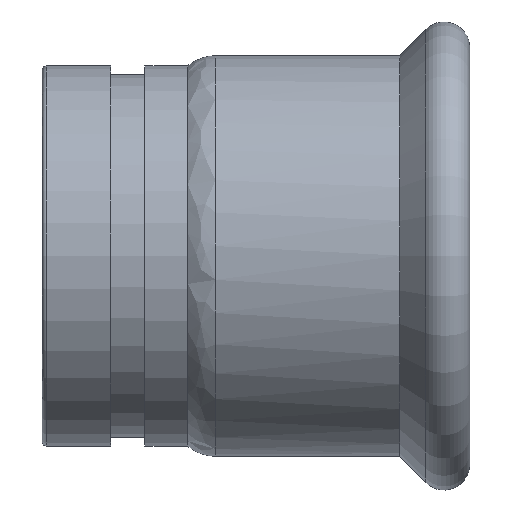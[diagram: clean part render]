
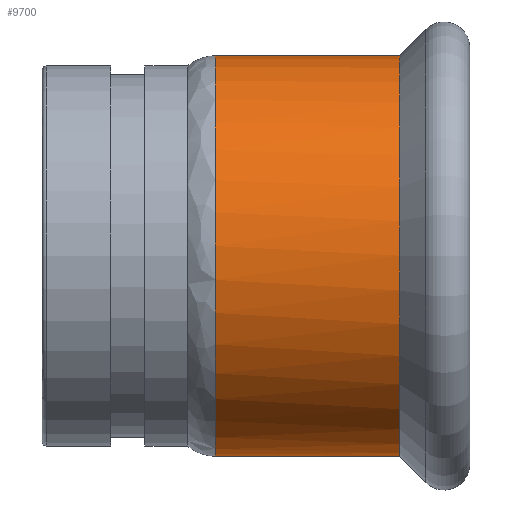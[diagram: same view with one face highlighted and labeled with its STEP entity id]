
A CAD part, top view. The second image highlights one B-rep face of the part: STEP entity #9700.
In plain terms, the highlighted cylindrical face has radius 46.85 mm (diameter 93.7 mm), a partial arc.
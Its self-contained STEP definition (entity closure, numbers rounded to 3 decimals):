
#5490=CARTESIAN_POINT('',(50.99,-46.85,
1.426));
#5500=CARTESIAN_POINT('',(50.99,-46.85,
-2.457));
#5510=CARTESIAN_POINT('',(50.99,-46.657,
-4.905));
#5520=CARTESIAN_POINT('',(50.99,-45.665,
-11.17));
#5530=CARTESIAN_POINT('',(50.99,-44.581,
-14.921));
#5540=CARTESIAN_POINT('',(50.99,-41.51,
-22.067));
#5550=CARTESIAN_POINT('',(50.99,-39.536,
-25.435));
#5560=CARTESIAN_POINT('',(50.99,-34.801,
-31.606));
#5570=CARTESIAN_POINT('',(50.99,-32.059,
-34.384));
#5580=CARTESIAN_POINT('',(50.99,-25.95,
-39.2));
#5590=CARTESIAN_POINT('',(50.99,-22.608,
-41.218));
#5600=CARTESIAN_POINT('',(50.99,-15.503,
-44.381));
#5610=CARTESIAN_POINT('',(50.99,-11.767,
-45.515));
#5620=CARTESIAN_POINT('',(50.99,-4.101,
-46.832));
#5630=CARTESIAN_POINT('',(50.99,-0.201,
-47.011));
#5640=CARTESIAN_POINT('',(50.99,7.553,
-46.4));
#5650=CARTESIAN_POINT('',(50.99,11.377,
-45.614));
#5660=CARTESIAN_POINT('',(50.99,18.742,
-43.114));
#5670=CARTESIAN_POINT('',(50.99,22.255,
-41.41));
#5680=CARTESIAN_POINT('',(50.99,28.778,
-37.174));
#5690=CARTESIAN_POINT('',(50.99,31.763,
-34.658));
#5700=CARTESIAN_POINT('',(50.99,37.043,
-28.946));
#5710=CARTESIAN_POINT('',(50.99,39.317,
-25.773));
#5720=CARTESIAN_POINT('',(50.99,43.028,
-18.937));
#5730=CARTESIAN_POINT('',(50.99,44.451,
-15.302));
#5740=CARTESIAN_POINT('',(50.99,46.366,
-7.763));
#5750=CARTESIAN_POINT('',(50.99,46.85,-3.889));
#5760=CARTESIAN_POINT('',(50.99,46.85,0.));
#5770=CARTESIAN_POINT('',(50.99,46.85,2.454));
#5780=CARTESIAN_POINT('',(50.99,46.657,
4.905));
#5790=CARTESIAN_POINT('',(50.99,45.889,
9.753));
#5800=CARTESIAN_POINT('',(50.99,45.315,
12.143));
#5810=CARTESIAN_POINT('',(50.99,43.355,
18.176));
#5820=CARTESIAN_POINT('',(50.99,41.698,
21.711));
#5830=CARTESIAN_POINT('',(50.99,37.547,
28.289));
#5840=CARTESIAN_POINT('',(50.99,35.07,
31.307));
#5850=CARTESIAN_POINT('',(50.99,29.428,
36.661));
#5860=CARTESIAN_POINT('',(50.99,26.285,
38.976));
#5870=CARTESIAN_POINT('',(50.99,19.499,
42.777));
#5880=CARTESIAN_POINT('',(50.99,15.882,
44.247));
#5890=CARTESIAN_POINT('',(50.99,8.369,
46.26));
#5900=CARTESIAN_POINT('',(50.99,4.502,
46.795));
#5910=CARTESIAN_POINT('',(50.99,-3.275,
46.897));
#5920=CARTESIAN_POINT('',(50.99,-7.155,
46.463));
#5930=CARTESIAN_POINT('',(50.99,-14.718,
44.648));
#5940=CARTESIAN_POINT('',(50.99,-18.372,
43.272));
#5950=CARTESIAN_POINT('',(50.99,-25.256,
39.651));
#5960=CARTESIAN_POINT('',(50.99,-28.459,
37.419));
#5970=CARTESIAN_POINT('',(50.99,-34.239,
32.214));
#5980=CARTESIAN_POINT('',(50.99,-36.794,
29.262));
#5990=CARTESIAN_POINT('',(50.99,-41.115,
22.795));
#6000=CARTESIAN_POINT('',(50.99,-42.865,
19.305));
#6010=CARTESIAN_POINT('',(50.99,-45.461,
11.973));
#6020=CARTESIAN_POINT('',(50.99,-46.298,
8.16));
#6030=CARTESIAN_POINT('',(50.99,-46.785,
2.858));
#6040=CARTESIAN_POINT('',(50.99,-46.85,
1.426));
#6050=CARTESIAN_POINT('',(50.99,-46.85,
-2.457));
#6060=B_SPLINE_CURVE_WITH_KNOTS('',3,(#5490,#5500,#5510,#5520,#5530,
#5540,#5550,#5560,#5570,#5580,#5590,#5600,#5610,#5620,#5630,#5640,#5650,
#5660,#5670,#5680,#5690,#5700,#5710,#5720,#5730,#5740,#5750,#5760,#5770,
#5780,#5790,#5800,#5810,#5820,#5830,#5840,#5850,#5860,#5870,#5880,#5890,
#5900,#5910,#5920,#5930,#5940,#5950,#5960,#5970,#5980,#5990,#6000,#6010,
#6020,#6030,#6040,#6050),.UNSPECIFIED.,.T.,.F.,(2,2,2,2,2,2,2,2,2,2,2,2,
2,2,3,2,2,2,2,2,2,2,2,2,2,2,2,2,2,2),(139.42,143.614,
150.79,162.16,173.53,184.9,
196.269,207.639,219.009,230.379,
241.749,253.119,264.489,275.859,
287.229,294.404,301.58,312.95,
324.319,335.689,347.059,358.429,
369.799,381.169,392.539,403.909,
415.279,426.649,430.843,438.019),
.UNSPECIFIED.);
#6090=CARTESIAN_POINT('',(50.99,46.85,0.));
#6100=VERTEX_POINT('',#6090);
#6800=CARTESIAN_POINT('',(91.088,0.,0.));
#6810=DIRECTION('',(-1.,0.,0.));
#6820=DIRECTION('',(0.,1.,0.));
#6830=AXIS2_PLACEMENT_3D('',#6800,#6810,#6820);
#6840=CYLINDRICAL_SURFACE('',#6830,46.85);
#6850=CARTESIAN_POINT('',(91.088,46.85,0.));
#6860=DIRECTION('',(-1.,0.,0.));
#6870=VECTOR('',#6860,1.);
#6880=LINE('',#6850,#6870);
#6890=CARTESIAN_POINT('',(94.105,46.85,0.));
#6900=VERTEX_POINT('',#6890);
#6910=EDGE_CURVE('',#6900,#6100,#6880,.T.);
#6950=CARTESIAN_POINT('',(50.99,-46.85,0.)
);
#6960=VERTEX_POINT('',#6950);
#6990=CARTESIAN_POINT('',(91.088,-46.85,0.)
);
#7000=DIRECTION('',(-1.,0.,0.));
#7010=VECTOR('',#7000,1.);
#7020=LINE('',#6990,#7010);
#7030=CARTESIAN_POINT('',(94.105,-46.85,0.)
);
#7040=VERTEX_POINT('',#7030);
#7050=EDGE_CURVE('',#7040,#6960,#7020,.T.);
#7070=CARTESIAN_POINT('',(94.105,0.,0.));
#7080=DIRECTION('',(1.,0.,0.));
#7090=DIRECTION('',(0.,1.,0.));
#7100=AXIS2_PLACEMENT_3D('',#7070,#7080,#7090);
#7110=CIRCLE('',#7100,46.85);
#9240=EDGE_CURVE('',#6900,#7040,#7110,.T.);
#9630=ORIENTED_EDGE('',*,*,#9240,.F.);
#9640=ORIENTED_EDGE('',*,*,#7050,.F.);
#9650=EDGE_CURVE('',#6100,#6960,#6060,.T.);
#9660=ORIENTED_EDGE('',*,*,#9650,.T.);
#9670=ORIENTED_EDGE('',*,*,#6910,.T.);
#9680=EDGE_LOOP('',(#9670,#9660,#9640,#9630));
#9690=FACE_OUTER_BOUND('',#9680,.T.);
#9700=ADVANCED_FACE('',(#9690),#6840,.T.);
